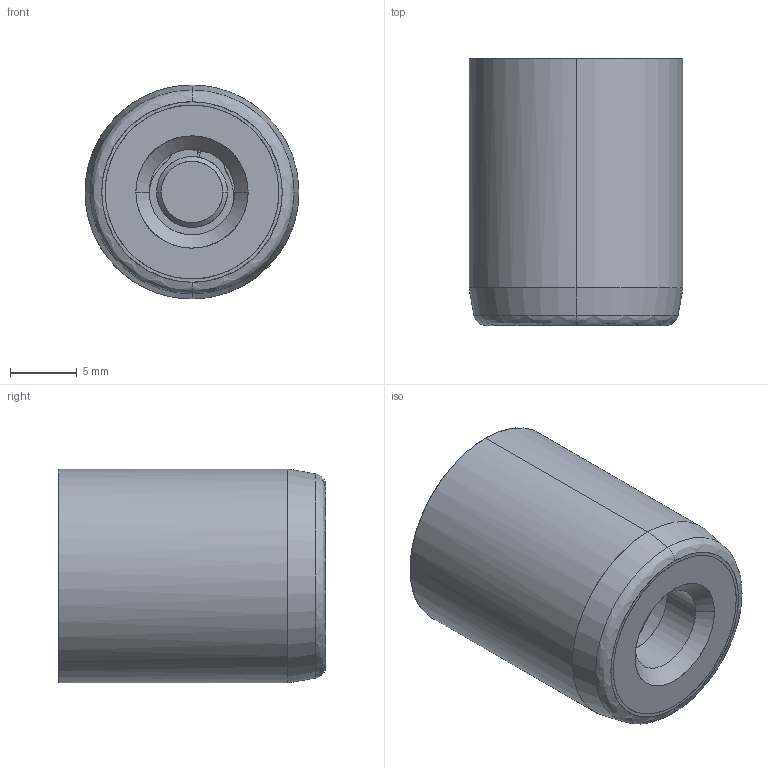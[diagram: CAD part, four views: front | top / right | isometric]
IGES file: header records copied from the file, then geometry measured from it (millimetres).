
Start section: START RECORD GO HERE.
Global section: file name: va161320.igs; native system: DASSAULT SYSTEMES CATIA V5 R20 - www.3ds.com; preprocessor: CATIA Version 5 Release 20 ; author: Utente; organization: NB04-ASUS; date: 20201107.140632; units: millimetre
Bounding box: 16 x 20 x 16 mm (x, y, z)
Surface area: 3630.3 mm2 (no closed solid volume)
Topology: 0 solids, 0 shells, 193 faces, 872 edges, 872 vertices
Faces by surface type: plane 67, revolution 66, bspline 60
